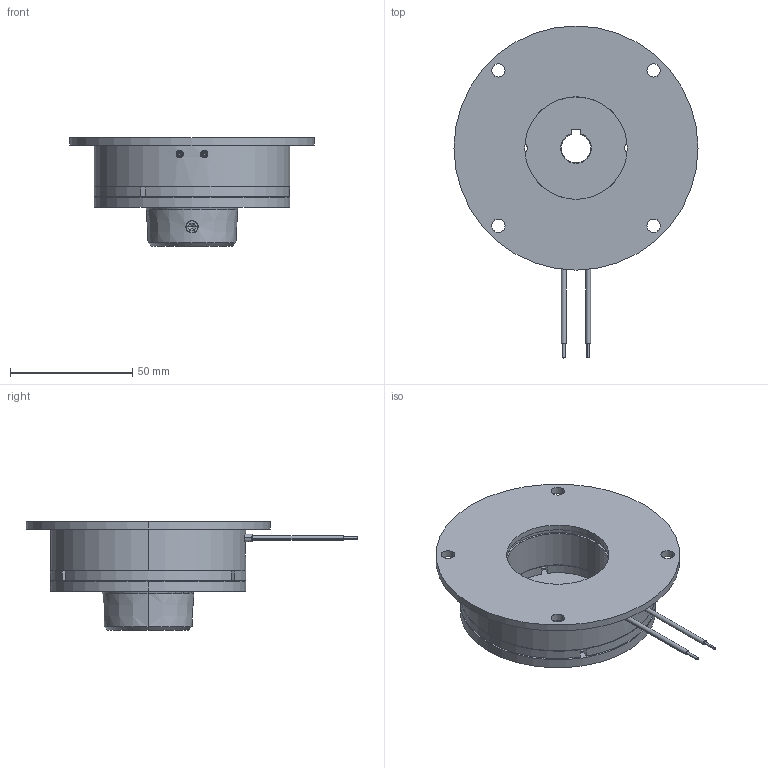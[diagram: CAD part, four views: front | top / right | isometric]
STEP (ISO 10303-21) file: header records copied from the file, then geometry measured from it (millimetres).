
FILE_DESCRIPTION (( 'STEP AP214' ), '1' );
FILE_NAME ('dr_bk_0702-130_mu.STEP', '2021-11-10T10:11:26', ( '' ), ( '' ), 'SwSTEP 2.0', 'SolidWorks 2019', '' );
FILE_SCHEMA (( 'AUTOMOTIVE_DESIGN' ));
Length unit declared in the file: millimetre
Products named in the file (11): 10068806_000_Einbaul„nge 3,05mm; 10068806_000_Einbaul„nge 2,75; 10068804_000; 10068807_000; 10068810_000; 10068802_000; 10068805_000; dr_bk_0702-130_mu; 10068695_000; 10068811_000_M 6 x 10; 10068812_000
Assembly tree (19 placements, depth 4):
  dr_bk_0702-130_mu
    10068695_000
    10068810_000
      10068812_000
      10068802_000
        10068804_000
        10068807_000
        10068805_000  x3
        10068806_000_Einbaul„nge 2,75  x3
      10068806_000_Einbaul„nge 3,05mm  x3
      10068805_000  x3
      10068811_000_M 6 x 10
Bounding box: 100 x 136 x 44.5 mm (x, y, z)
Volume: 127681.8 mm3; surface area: 50473.1 mm2
Topology: 19 solids, 19 shells, 579 faces, 1455 edges, 925 vertices
Faces by surface type: plane 174, cylinder 167, bspline 111, cone 84, torus 31, sphere 12
Entity records: 23041 total; most frequent: CARTESIAN_POINT 10695, ORIENTED_EDGE 2458, DIRECTION 2023, EDGE_CURVE 1229, VERTEX_POINT 797, AXIS2_PLACEMENT_3D 745, EDGE_LOOP 554, LINE 533
